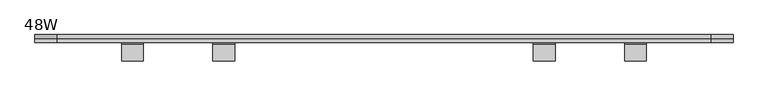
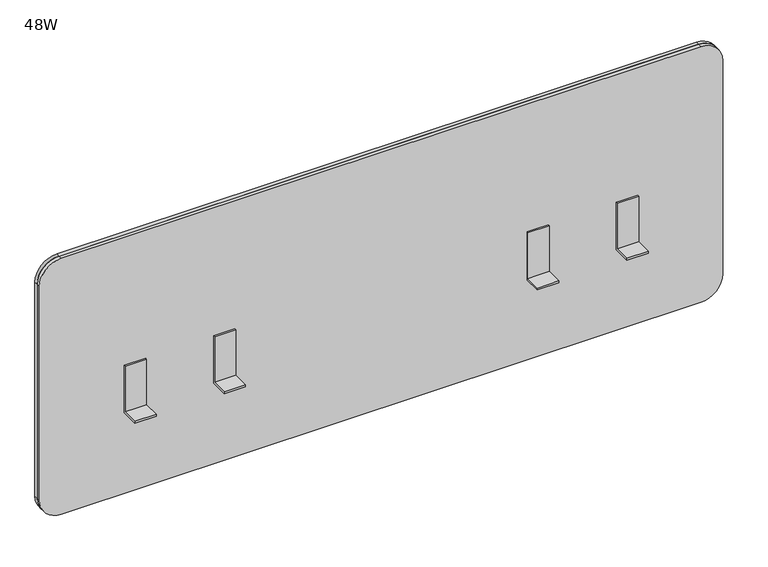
"""IFC4 building model written with IfcOpenShell, lengths in millimetres: furniture geometry, Steelcase Turnstone - Bivi - Screen - Straight : 48W."""

from ifc_helpers import new_model, si_unit, point, frame, frame_2d, origin, place, context, project, spatial, polyline, circle_curve, trimmed, segment, composite_curve, outline, extrude, source, transform, mapped, element, save


def furniture_48w_89c0e46b(model_context):
    return source(origin(), model_context, "Body", "SweptSolid", [
        extrude(outline(polyline([(-100.6456009, 700.9734272), (-100.6456009, 787.0495535), (-97.6872108, 787.0495535), (-97.6872108, 697.3921394), (-130.205922, 697.3921394), (-130.205922, 700.9734272), (-100.6456009, 700.9734272)])), frame((310.9038388, 0.0, 0.0), z_axis=(1.0, 0.0, 0.0), x_axis=(0.0, 1.0, 0.0)), (0.0, 0.0, 1.0), 38.2069702),
        extrude(outline(polyline([(-100.6456009, 700.9734272), (-100.6456009, 787.0495535), (-97.6872108, 787.0495535), (-97.6872108, 697.3921394), (-130.205922, 697.3921394), (-130.205922, 700.9734272), (-100.6456009, 700.9734272)])), frame((870.089191, 0.0, 0.0), z_axis=(1.0, 0.0, 0.0), x_axis=(0.0, 1.0, 0.0)), (0.0, 0.0, 1.0), 38.2069702),
        extrude(outline(polyline([(-100.6456009, 700.9734272), (-100.6456009, 787.0495535), (-97.6872108, 787.0495535), (-97.6872108, 697.3921394), (-130.205922, 697.3921394), (-130.205922, 700.9734272), (-100.6456009, 700.9734272)])), frame((1029.6617872, 0.0, 0.0), z_axis=(1.0, 0.0, 0.0), x_axis=(0.0, 1.0, 0.0)), (0.0, 0.0, 1.0), 38.2069702),
        extrude(outline(polyline([(-100.6456009, 700.9734272), (-100.6456009, 787.0495535), (-97.6872108, 787.0495535), (-97.6872108, 697.3921394), (-130.205922, 697.3921394), (-130.205922, 700.9734272), (-100.6456009, 700.9734272)])), frame((151.3312426, 0.0, 0.0), z_axis=(1.0, 0.0, 0.0), x_axis=(0.0, 1.0, 0.0)), (0.0, 0.0, 1.0), 38.2069702),
        extrude(outline(composite_curve([segment(polyline([(1028.3412889, 1179.83), (1028.3412889, 39.4397467)]), True, "CONTINUOUS"), segment(trimmed(circle_curve(frame_2d((988.9015421, 39.4397467)), 39.4397467), [point((1028.3412889, 39.4397467))], [point((988.9015421, 0.0))], False, "CARTESIAN"), True, "CONTINUOUS"), segment(polyline([(988.9015421, 0.0), (585.1278182, 0.0)]), True, "CONTINUOUS"), segment(trimmed(circle_curve(frame_2d((585.1278182, 39.37)), 39.37), [point((585.1278182, 0.0))], [point((545.7578182, 39.37))], False, "CARTESIAN"), True, "CONTINUOUS"), segment(polyline([(545.7578182, 39.37), (545.7578182, 1179.83)]), True, "CONTINUOUS"), segment(trimmed(circle_curve(frame_2d((585.1278182, 1179.83)), 39.37), [point((545.7578182, 1179.83))], [point((585.1278182, 1219.2))], False, "CARTESIAN"), True, "CONTINUOUS"), segment(polyline([(585.1278182, 1219.2), (988.9712889, 1219.2)]), True, "CONTINUOUS"), segment(trimmed(circle_curve(frame_2d((988.9712889, 1179.83)), 39.37), [point((988.9712889, 1219.2))], [point((1028.3412889, 1179.83))], False, "CARTESIAN"), True, "CONTINUOUS")], self_intersect=False)), frame((0.0, -90.878476, 0.0), z_axis=(0.0, 1.0, 0.0), x_axis=(0.0, 0.0, 1.0)), (0.0, 0.0, 1.0), 6.8087348),
        extrude(outline(composite_curve([segment(polyline([(1028.3412889, 1179.83), (1028.3412889, 39.4397467)]), True, "CONTINUOUS"), segment(trimmed(circle_curve(frame_2d((988.9015421, 39.4397467)), 39.4397467), [point((1028.3412889, 39.4397467))], [point((988.9015421, 0.0))], False, "CARTESIAN"), True, "CONTINUOUS"), segment(polyline([(988.9015421, 0.0), (585.1278182, 0.0)]), True, "CONTINUOUS"), segment(trimmed(circle_curve(frame_2d((585.1278182, 39.37)), 39.37), [point((585.1278182, 0.0))], [point((545.7578182, 39.37))], False, "CARTESIAN"), True, "CONTINUOUS"), segment(polyline([(545.7578182, 39.37), (545.7578182, 1179.83)]), True, "CONTINUOUS"), segment(trimmed(circle_curve(frame_2d((585.1278182, 1179.83)), 39.37), [point((545.7578182, 1179.83))], [point((585.1278182, 1219.2))], False, "CARTESIAN"), True, "CONTINUOUS"), segment(polyline([(585.1278182, 1219.2), (988.9712889, 1219.2)]), True, "CONTINUOUS"), segment(trimmed(circle_curve(frame_2d((988.9712889, 1179.83)), 39.37), [point((988.9712889, 1219.2))], [point((1028.3412889, 1179.83))], False, "CARTESIAN"), True, "CONTINUOUS")], self_intersect=False)), frame((0.0, -97.6872108, 0.0), z_axis=(0.0, 1.0, 0.0), x_axis=(0.0, 0.0, 1.0)), (0.0, 0.0, 1.0), 6.8087348),
    ])


if __name__ == "__main__":
    model = new_model("IFC4")
    model_context = context("Model", 3, world=origin())
    ifc_project = project(units=[si_unit("LENGTHUNIT", "METRE", prefix="MILLI")], contexts=[model_context])
    site = spatial("IfcSite", under=ifc_project)
    building = spatial("IfcBuilding", under=site)
    placement = place(None, origin())
    furniture_48w_shape = furniture_48w_89c0e46b(model_context)
    element("IfcFurniture", 1, ObjectType="Steelcase Turnstone - Bivi - Screen - Straight : 48W", at=placement, inside=building, context=model_context, shape_type="MappedRepresentation", body=[
        mapped(furniture_48w_shape, transform((0.0, 0.0, 0.0), x_axis=(1.0, 0.0, 0.0), y_axis=(0.0, 1.0, 0.0), z_axis=(0.0, 0.0, 1.0))),
    ])
    save(model, "model.ifc")
